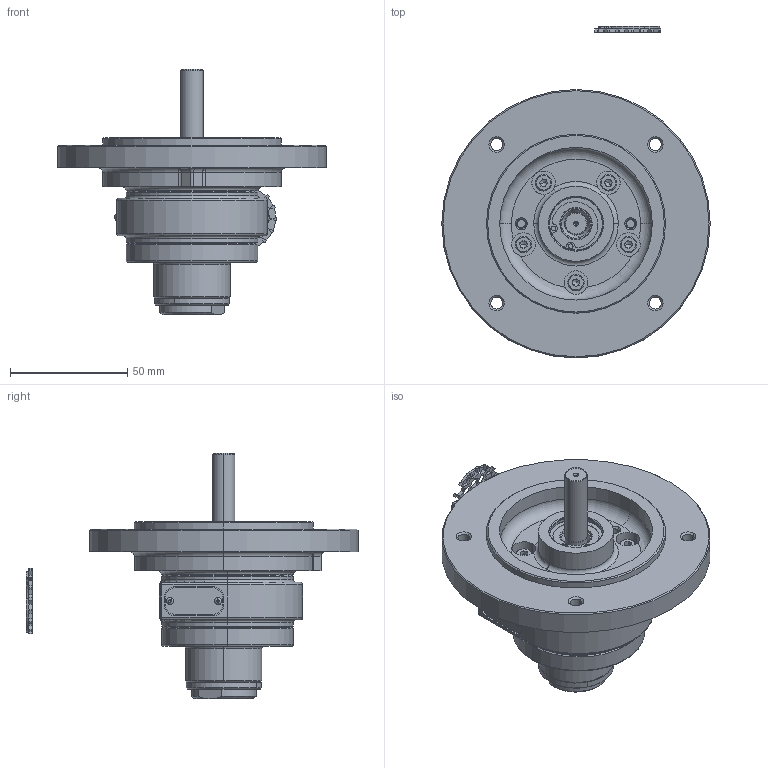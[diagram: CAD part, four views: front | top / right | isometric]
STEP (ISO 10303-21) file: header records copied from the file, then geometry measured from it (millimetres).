
FILE_DESCRIPTION (( 'STEP AP214' ), '1' );
FILE_NAME ('1VMN-SGI (22-04-26).STEP', '2026-04-22T05:04:54', ( '' ), ( '' ), 'SwSTEP 2.0', 'SolidWorks 2017', '' );
FILE_SCHEMA (( 'AUTOMOTIVE_DESIGN' ));
Length unit declared in the file: millimetre
Products named in the file (2): 1VMN-SGI (22-04-26)
Bounding box: 114.3 x 141.38 x 104.35 mm (x, y, z)
Volume: 129926.2 mm3; surface area: 65639.6 mm2
Topology: 31 solids, 32 shells, 1031 faces, 2546 edges, 1586 vertices
Faces by surface type: plane 423, cylinder 331, cone 195, torus 74, bspline 6, sphere 2
Entity records: 44631 total; most frequent: CARTESIAN_POINT 7239, DIRECTION 5741, ORIENTED_EDGE 5226, EDGE_CURVE 2613, AXIS2_PLACEMENT_3D 2213, VERTEX_POINT 1647, VECTOR 1315, LINE 1315
